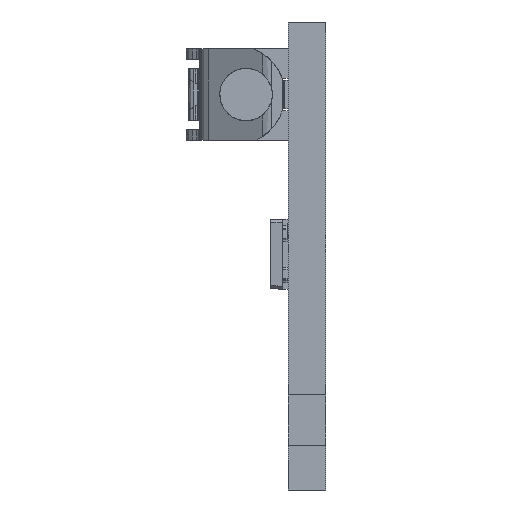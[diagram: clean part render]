
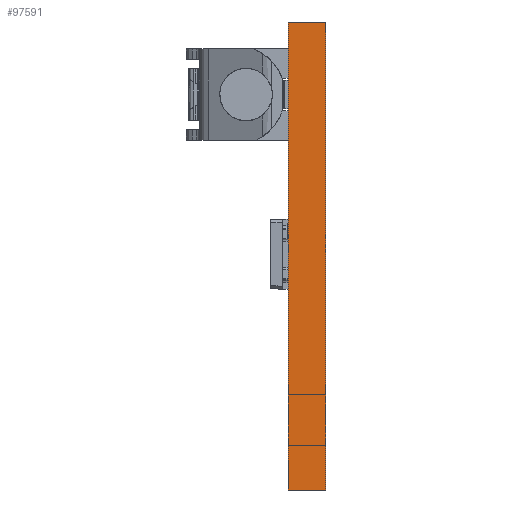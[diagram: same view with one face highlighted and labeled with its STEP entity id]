
A CAD part, left-side view. The second image highlights one B-rep face of the part: STEP entity #97591.
In plain terms, the highlighted planar face has unit normal (-1, 0, 0).
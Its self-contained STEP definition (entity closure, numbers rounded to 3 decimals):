
#9546=DIRECTION('',(0.,0.,1.));
#9547=VECTOR('',#9546,20.);
#9548=CARTESIAN_POINT('',(-282.2,0.,-4.1));
#9549=LINE('',#9548,#9547);
#29250=DIRECTION('',(0.,-1.,0.));
#29251=VECTOR('',#29250,1.6);
#29252=CARTESIAN_POINT('',(-282.2,0.,-4.1));
#29253=LINE('',#29252,#29251);
#29254=DIRECTION('',(0.,-1.,0.));
#29255=VECTOR('',#29254,1.6);
#29256=CARTESIAN_POINT('',(-282.2,0.,15.9));
#29257=LINE('',#29256,#29255);
#29468=DIRECTION('',(0.,0.,1.));
#29469=VECTOR('',#29468,20.);
#29470=CARTESIAN_POINT('',(-282.2,-1.6,-4.1));
#29471=LINE('',#29470,#29469);
#30204=CARTESIAN_POINT('',(-282.2,0.,-4.1));
#30205=VERTEX_POINT('',#30204);
#30206=CARTESIAN_POINT('',(-282.2,0.,15.9));
#30207=VERTEX_POINT('',#30206);
#30420=CARTESIAN_POINT('',(-282.2,-1.6,-4.1));
#30421=VERTEX_POINT('',#30420);
#30422=CARTESIAN_POINT('',(-282.2,-1.6,15.9));
#30423=VERTEX_POINT('',#30422);
#97578=CARTESIAN_POINT('',(-282.2,0.,-4.1));
#97579=DIRECTION('',(-1.,0.,0.));
#97580=DIRECTION('',(0.,0.,1.));
#97581=AXIS2_PLACEMENT_3D('',#97578,#97579,#97580);
#97582=PLANE('',#97581);
#97583=ORIENTED_EDGE('',*,*,#41415,.T.);
#97585=ORIENTED_EDGE('',*,*,#97584,.T.);
#97587=ORIENTED_EDGE('',*,*,#97586,.F.);
#97588=ORIENTED_EDGE('',*,*,#97563,.F.);
#97589=EDGE_LOOP('',(#97583,#97585,#97587,#97588));
#97590=FACE_OUTER_BOUND('',#97589,.F.);
#41415=EDGE_CURVE('',#30205,#30207,#9549,.T.);
#97563=EDGE_CURVE('',#30205,#30421,#29253,.T.);
#97584=EDGE_CURVE('',#30207,#30423,#29257,.T.);
#97586=EDGE_CURVE('',#30421,#30423,#29471,.T.);
#97591=ADVANCED_FACE('',(#97590),#97582,.T.);
